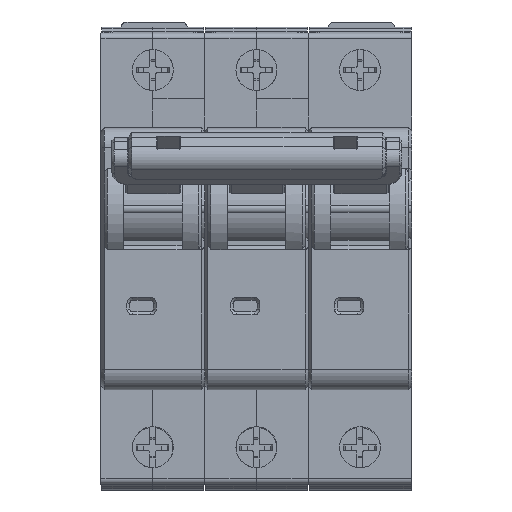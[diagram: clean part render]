
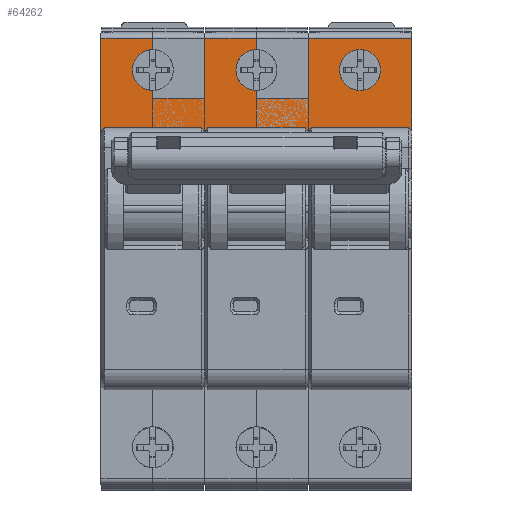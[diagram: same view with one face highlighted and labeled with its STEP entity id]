
A CAD part, left-side view. The second image highlights one B-rep face of the part: STEP entity #64262.
In plain terms, the highlighted planar face has unit normal (-1, 0, 0).
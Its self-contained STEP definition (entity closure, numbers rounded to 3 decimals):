
#641=DIRECTION('',(0.,1.,0.));
#642=VECTOR('',#641,8.85);
#643=CARTESIAN_POINT('',(7.,35.4,35.));
#644=LINE('',#643,#642);
#1073=DIRECTION('',(0.,0.567,-0.824));
#1074=VECTOR('',#1073,0.971);
#1075=CARTESIAN_POINT('',(7.,34.85,30.));
#1076=LINE('',#1075,#1074);
#1077=DIRECTION('',(0.,1.,0.));
#1078=VECTOR('',#1077,3.85);
#1079=CARTESIAN_POINT('',(7.,35.4,29.));
#1080=LINE('',#1079,#1078);
#1081=DIRECTION('',(0.,0.,1.));
#1082=VECTOR('',#1081,1.);
#1083=CARTESIAN_POINT('',(7.,39.25,29.));
#1084=LINE('',#1083,#1082);
#1085=DIRECTION('',(0.,0.567,-0.824));
#1086=VECTOR('',#1085,0.971);
#1087=CARTESIAN_POINT('',(7.,52.55,30.));
#1088=LINE('',#1087,#1086);
#1089=DIRECTION('',(0.,0.,1.));
#1090=VECTOR('',#1089,16.);
#1091=CARTESIAN_POINT('',(7.,53.1,29.2));
#1092=LINE('',#1091,#1090);
#1093=DIRECTION('',(0.,0.,-1.));
#1094=VECTOR('',#1093,1.9);
#1095=CARTESIAN_POINT('',(7.,44.25,45.2));
#1096=LINE('',#1095,#1094);
#1097=CARTESIAN_POINT('',(7.,44.25,39.8));
#1098=DIRECTION('',(-1.,0.,0.));
#1099=DIRECTION('',(0.,0.,1.));
#1100=AXIS2_PLACEMENT_3D('',#1097,#1098,#1099);
#1102=DIRECTION('',(0.,0.,-1.));
#1103=VECTOR('',#1102,1.3);
#1104=CARTESIAN_POINT('',(7.,44.25,36.3));
#1105=LINE('',#1104,#1103);
#1106=DIRECTION('',(0.,0.,1.));
#1107=VECTOR('',#1106,10.2);
#1108=CARTESIAN_POINT('',(7.,35.4,35.));
#1109=LINE('',#1108,#1107);
#1110=DIRECTION('',(0.,0.,-1.));
#1111=VECTOR('',#1110,1.9);
#1112=CARTESIAN_POINT('',(7.,26.55,45.2));
#1113=LINE('',#1112,#1111);
#1114=CARTESIAN_POINT('',(7.,26.55,39.8));
#1115=DIRECTION('',(-1.,0.,0.));
#1116=DIRECTION('',(0.,0.,1.));
#1117=AXIS2_PLACEMENT_3D('',#1114,#1115,#1116);
#1119=DIRECTION('',(0.,0.,-1.));
#1120=VECTOR('',#1119,1.3);
#1121=CARTESIAN_POINT('',(7.,26.55,36.3));
#1122=LINE('',#1121,#1120);
#1123=DIRECTION('',(0.,0.,1.));
#1124=VECTOR('',#1123,10.2);
#1125=CARTESIAN_POINT('',(7.,17.7,35.));
#1126=LINE('',#1125,#1124);
#1127=DIRECTION('',(0.,0.,-1.));
#1128=VECTOR('',#1127,16.);
#1129=CARTESIAN_POINT('',(7.,0.,45.2));
#1130=LINE('',#1129,#1128);
#1131=DIRECTION('',(0.,0.567,0.824));
#1132=VECTOR('',#1131,0.971);
#1133=CARTESIAN_POINT('',(7.,0.,29.2));
#1134=LINE('',#1133,#1132);
#1135=DIRECTION('',(0.,0.567,-0.824));
#1136=VECTOR('',#1135,0.971);
#1137=CARTESIAN_POINT('',(7.,17.15,30.));
#1138=LINE('',#1137,#1136);
#1139=DIRECTION('',(0.,1.,0.));
#1140=VECTOR('',#1139,3.85);
#1141=CARTESIAN_POINT('',(7.,17.7,29.));
#1142=LINE('',#1141,#1140);
#1143=DIRECTION('',(0.,0.,1.));
#1144=VECTOR('',#1143,1.);
#1145=CARTESIAN_POINT('',(7.,21.55,29.));
#1146=LINE('',#1145,#1144);
#1147=CARTESIAN_POINT('',(7.,8.85,39.8));
#1148=DIRECTION('',(-1.,0.,0.));
#1149=DIRECTION('',(0.,0.,-1.));
#1150=AXIS2_PLACEMENT_3D('',#1147,#1148,#1149);
#1152=CARTESIAN_POINT('',(7.,8.85,39.8));
#1153=DIRECTION('',(-1.,0.,0.));
#1154=DIRECTION('',(0.,0.,1.));
#1155=AXIS2_PLACEMENT_3D('',#1152,#1153,#1154);
#1243=DIRECTION('',(0.,-1.,0.));
#1244=VECTOR('',#1243,13.3);
#1245=CARTESIAN_POINT('',(7.,34.85,30.));
#1246=LINE('',#1245,#1244);
#1279=DIRECTION('',(0.,0.,-1.));
#1280=VECTOR('',#1279,0.2);
#1281=CARTESIAN_POINT('',(7.,17.7,29.2));
#1282=LINE('',#1281,#1280);
#1315=DIRECTION('',(0.,-1.,0.));
#1316=VECTOR('',#1315,16.6);
#1317=CARTESIAN_POINT('',(7.,17.15,30.));
#1318=LINE('',#1317,#1316);
#1703=DIRECTION('',(0.,1.,0.));
#1704=VECTOR('',#1703,17.7);
#1705=CARTESIAN_POINT('',(7.,0.,45.2));
#1706=LINE('',#1705,#1704);
#1738=DIRECTION('',(0.,1.,0.));
#1739=VECTOR('',#1738,8.85);
#1740=CARTESIAN_POINT('',(7.,17.7,35.));
#1741=LINE('',#1740,#1739);
#3278=DIRECTION('',(0.,1.,0.));
#3279=VECTOR('',#3278,8.85);
#3280=CARTESIAN_POINT('',(7.,26.55,45.2));
#3281=LINE('',#3280,#3279);
#5979=DIRECTION('',(0.,1.,0.));
#5980=VECTOR('',#5979,8.85);
#5981=CARTESIAN_POINT('',(7.,44.25,45.2));
#5982=LINE('',#5981,#5980);
#42548=DIRECTION('',(0.,-1.,0.));
#42549=VECTOR('',#42548,13.3);
#42550=CARTESIAN_POINT('',(7.,52.55,30.));
#42551=LINE('',#42550,#42549);
#42584=DIRECTION('',(0.,0.,-1.));
#42585=VECTOR('',#42584,0.2);
#42586=CARTESIAN_POINT('',(7.,35.4,29.2));
#42587=LINE('',#42586,#42585);
#49239=CARTESIAN_POINT('',(7.,0.,29.2));
#49241=VERTEX_POINT('',#49239);
#49242=CARTESIAN_POINT('',(7.,0.,45.2));
#49243=VERTEX_POINT('',#49242);
#49378=CARTESIAN_POINT('',(7.,0.55,30.));
#49379=VERTEX_POINT('',#49378);
#51592=CARTESIAN_POINT('',(7.,17.7,45.2));
#51593=VERTEX_POINT('',#51592);
#53277=CARTESIAN_POINT('',(7.,17.15,30.));
#53278=VERTEX_POINT('',#53277);
#53689=CARTESIAN_POINT('',(7.,8.85,43.3));
#53691=VERTEX_POINT('',#53689);
#53721=CARTESIAN_POINT('',(7.,8.85,36.3));
#53723=VERTEX_POINT('',#53721);
#54904=CARTESIAN_POINT('',(7.,35.4,45.2));
#54905=VERTEX_POINT('',#54904);
#55036=CARTESIAN_POINT('',(7.,26.55,43.3));
#55037=VERTEX_POINT('',#55036);
#55038=CARTESIAN_POINT('',(7.,26.55,45.2));
#55039=VERTEX_POINT('',#55038);
#55154=CARTESIAN_POINT('',(7.,26.55,35.));
#55156=VERTEX_POINT('',#55154);
#55158=CARTESIAN_POINT('',(7.,26.55,36.3));
#55159=VERTEX_POINT('',#55158);
#55400=CARTESIAN_POINT('',(7.,21.55,29.));
#55401=CARTESIAN_POINT('',(7.,21.55,30.));
#55402=VERTEX_POINT('',#55400);
#55403=VERTEX_POINT('',#55401);
#55404=CARTESIAN_POINT('',(7.,34.85,30.));
#55405=VERTEX_POINT('',#55404);
#57366=CARTESIAN_POINT('',(7.,17.7,29.2));
#57367=CARTESIAN_POINT('',(7.,17.7,29.));
#57368=VERTEX_POINT('',#57366);
#57369=VERTEX_POINT('',#57367);
#57401=CARTESIAN_POINT('',(7.,17.7,35.));
#57403=VERTEX_POINT('',#57401);
#59166=CARTESIAN_POINT('',(7.,53.1,45.2));
#59167=VERTEX_POINT('',#59166);
#59168=CARTESIAN_POINT('',(7.,53.1,29.2));
#59169=VERTEX_POINT('',#59168);
#59418=CARTESIAN_POINT('',(7.,44.25,43.3));
#59419=VERTEX_POINT('',#59418);
#59420=CARTESIAN_POINT('',(7.,44.25,45.2));
#59421=VERTEX_POINT('',#59420);
#59536=CARTESIAN_POINT('',(7.,44.25,35.));
#59538=VERTEX_POINT('',#59536);
#59540=CARTESIAN_POINT('',(7.,44.25,36.3));
#59541=VERTEX_POINT('',#59540);
#59782=CARTESIAN_POINT('',(7.,39.25,29.));
#59783=CARTESIAN_POINT('',(7.,39.25,30.));
#59784=VERTEX_POINT('',#59782);
#59785=VERTEX_POINT('',#59783);
#59786=CARTESIAN_POINT('',(7.,52.55,30.));
#59787=VERTEX_POINT('',#59786);
#62096=CARTESIAN_POINT('',(7.,35.4,29.2));
#62097=CARTESIAN_POINT('',(7.,35.4,29.));
#62098=VERTEX_POINT('',#62096);
#62099=VERTEX_POINT('',#62097);
#62131=CARTESIAN_POINT('',(7.,35.4,35.));
#62133=VERTEX_POINT('',#62131);
#64196=CARTESIAN_POINT('',(7.,0.,0.));
#64197=DIRECTION('',(-1.,0.,0.));
#64198=DIRECTION('',(0.,0.,-1.));
#64199=AXIS2_PLACEMENT_3D('',#64196,#64197,#64198);
#64200=PLANE('',#64199);
#64202=ORIENTED_EDGE('',*,*,#64201,.T.);
#64204=ORIENTED_EDGE('',*,*,#64203,.T.);
#64206=ORIENTED_EDGE('',*,*,#64205,.T.);
#64208=ORIENTED_EDGE('',*,*,#64207,.T.);
#64210=ORIENTED_EDGE('',*,*,#64209,.F.);
#64212=ORIENTED_EDGE('',*,*,#64211,.T.);
#64214=ORIENTED_EDGE('',*,*,#64213,.T.);
#64216=ORIENTED_EDGE('',*,*,#64215,.F.);
#64218=ORIENTED_EDGE('',*,*,#64217,.T.);
#64220=ORIENTED_EDGE('',*,*,#64219,.T.);
#64221=ORIENTED_EDGE('',*,*,#64181,.T.);
#64222=ORIENTED_EDGE('',*,*,#63734,.F.);
#64223=ORIENTED_EDGE('',*,*,#63798,.T.);
#64225=ORIENTED_EDGE('',*,*,#64224,.F.);
#64227=ORIENTED_EDGE('',*,*,#64226,.T.);
#64229=ORIENTED_EDGE('',*,*,#64228,.T.);
#64231=ORIENTED_EDGE('',*,*,#64230,.T.);
#64233=ORIENTED_EDGE('',*,*,#64232,.F.);
#64235=ORIENTED_EDGE('',*,*,#64234,.T.);
#64237=ORIENTED_EDGE('',*,*,#64236,.F.);
#64239=ORIENTED_EDGE('',*,*,#64238,.T.);
#64241=ORIENTED_EDGE('',*,*,#64240,.T.);
#64243=ORIENTED_EDGE('',*,*,#64242,.F.);
#64245=ORIENTED_EDGE('',*,*,#64244,.T.);
#64247=ORIENTED_EDGE('',*,*,#64246,.T.);
#64249=ORIENTED_EDGE('',*,*,#64248,.T.);
#64251=ORIENTED_EDGE('',*,*,#64250,.T.);
#64253=ORIENTED_EDGE('',*,*,#64252,.F.);
#64254=EDGE_LOOP('',(#64202,#64204,#64206,#64208,#64210,#64212,#64214,#64216,
#64218,#64220,#64221,#64222,#64223,#64225,#64227,#64229,#64231,#64233,#64235,
#64237,#64239,#64241,#64243,#64245,#64247,#64249,#64251,#64253));
#64255=FACE_OUTER_BOUND('',#64254,.F.);
#64257=ORIENTED_EDGE('',*,*,#64256,.T.);
#64259=ORIENTED_EDGE('',*,*,#64258,.T.);
#64260=EDGE_LOOP('',(#64257,#64259));
#64261=FACE_BOUND('',#64260,.F.);
#64262=ADVANCED_FACE('',(#64255,#64261),#64200,.T.);
#1101=CIRCLE('',#1100,3.5);
#1118=CIRCLE('',#1117,3.5);
#1151=CIRCLE('',#1150,3.5);
#1156=CIRCLE('',#1155,3.5);
#63734=EDGE_CURVE('',#62133,#59538,#644,.T.);
#63798=EDGE_CURVE('',#62133,#54905,#1109,.T.);
#64181=EDGE_CURVE('',#59541,#59538,#1105,.T.);
#64201=EDGE_CURVE('',#55405,#62098,#1076,.T.);
#64203=EDGE_CURVE('',#62098,#62099,#42587,.T.);
#64205=EDGE_CURVE('',#62099,#59784,#1080,.T.);
#64207=EDGE_CURVE('',#59784,#59785,#1084,.T.);
#64209=EDGE_CURVE('',#59787,#59785,#42551,.T.);
#64211=EDGE_CURVE('',#59787,#59169,#1088,.T.);
#64213=EDGE_CURVE('',#59169,#59167,#1092,.T.);
#64215=EDGE_CURVE('',#59421,#59167,#5982,.T.);
#64217=EDGE_CURVE('',#59421,#59419,#1096,.T.);
#64219=EDGE_CURVE('',#59419,#59541,#1101,.T.);
#64224=EDGE_CURVE('',#55039,#54905,#3281,.T.);
#64226=EDGE_CURVE('',#55039,#55037,#1113,.T.);
#64228=EDGE_CURVE('',#55037,#55159,#1118,.T.);
#64230=EDGE_CURVE('',#55159,#55156,#1122,.T.);
#64232=EDGE_CURVE('',#57403,#55156,#1741,.T.);
#64234=EDGE_CURVE('',#57403,#51593,#1126,.T.);
#64236=EDGE_CURVE('',#49243,#51593,#1706,.T.);
#64238=EDGE_CURVE('',#49243,#49241,#1130,.T.);
#64240=EDGE_CURVE('',#49241,#49379,#1134,.T.);
#64242=EDGE_CURVE('',#53278,#49379,#1318,.T.);
#64244=EDGE_CURVE('',#53278,#57368,#1138,.T.);
#64246=EDGE_CURVE('',#57368,#57369,#1282,.T.);
#64248=EDGE_CURVE('',#57369,#55402,#1142,.T.);
#64250=EDGE_CURVE('',#55402,#55403,#1146,.T.);
#64252=EDGE_CURVE('',#55405,#55403,#1246,.T.);
#64256=EDGE_CURVE('',#53723,#53691,#1151,.T.);
#64258=EDGE_CURVE('',#53691,#53723,#1156,.T.);
